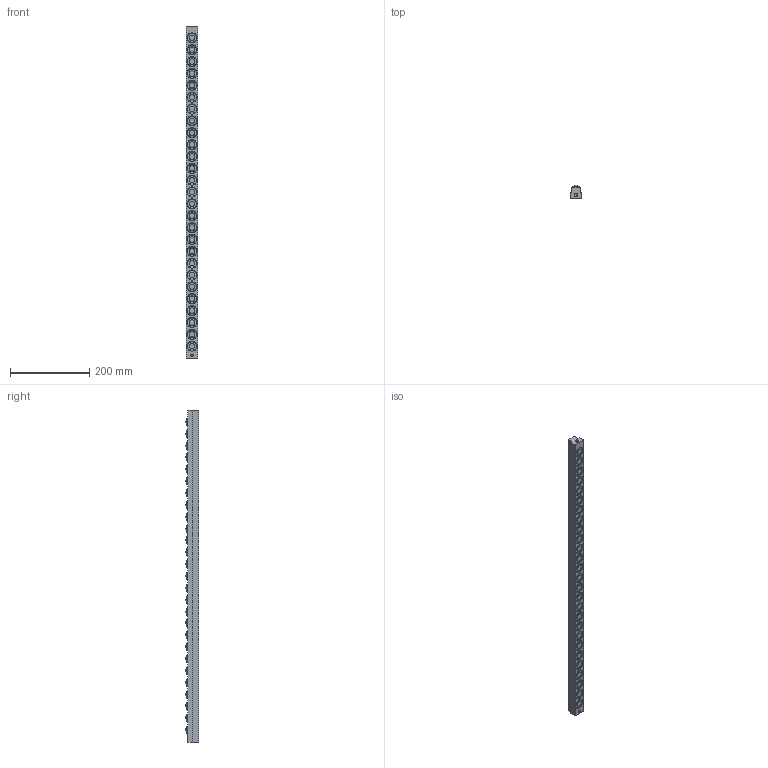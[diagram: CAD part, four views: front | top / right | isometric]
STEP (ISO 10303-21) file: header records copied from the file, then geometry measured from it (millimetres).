
FILE_DESCRIPTION (( 'STEP AP203' ), '1' );
FILE_NAME ('PVL20T-27.STEP', '2016-02-18T07:18:30', ( '' ), ( '' ), 'SwSTEP 2.0', 'SolidWorks 2013', '' );
FILE_SCHEMA (( 'CONFIG_CONTROL_DESIGN' ));
Length unit declared in the file: millimetre
Products named in the file (1): PVL20T-27
Bounding box: 30 x 34 x 840 mm (x, y, z)
Volume: 619101.5 mm3; surface area: 110980.3 mm2
Topology: 1 solids, 1 shells, 778 faces, 1861 edges, 1248 vertices
Faces by surface type: cylinder 438, plane 228, torus 54, sphere 54, cone 4
Entity records: 23356 total; most frequent: DIRECTION 4621, CARTESIAN_POINT 3886, ORIENTED_EDGE 3718, AXIS2_PLACEMENT_3D 1983, EDGE_CURVE 1859, VERTEX_POINT 1248, CIRCLE 1204, EDGE_LOOP 945
